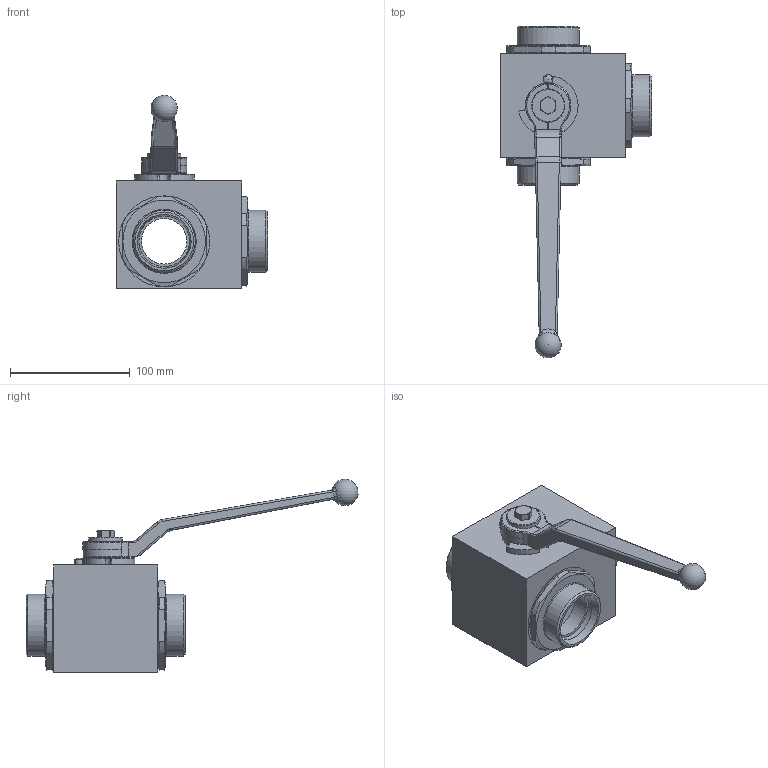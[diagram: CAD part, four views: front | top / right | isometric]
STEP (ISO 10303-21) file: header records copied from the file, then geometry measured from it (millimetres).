
FILE_DESCRIPTION( ( 'Unknown' ), '1' );
FILE_NAME( 'H:/PISTER/3D-MODELLE/BK3-Edelstahl stp/BK3-Edelst DN40 42L.stp', 'Unknown', ( 'Unknown' ), ( 'Unknown' ), 'PSStep 14.0', 'Unknown', ' ' );
FILE_SCHEMA( ( 'AUTOMOTIVE_DESIGN { 1 0 10303 214 1 1 1 1 }' ) );
Length unit declared in the file: millimetre
Products named in the file (11): Assem1; 56-032-171-oa2; 09-17-002; 58-1473-020-oa3; 58-0440-008; 03-040-001-oa4; 04-040-097-oa5; 04-040-097-oa6; 56-032-048-oa13; Griff_SW17_; 01-040-013-oa14
Assembly tree (10 placements, depth 2):
  Assem1
    56-032-171-oa2
    09-17-002
    58-1473-020-oa3
    58-0440-008
    03-040-001-oa4
    04-040-097-oa5
    04-040-097-oa6
    56-032-048-oa13
    Griff_SW17_
    01-040-013-oa14
Bounding box: 126.5 x 277.42 x 161.6 mm (x, y, z)
Volume: 589331.6 mm3; surface area: 140904.4 mm2
Topology: 10 solids, 10 shells, 353 faces, 888 edges, 562 vertices
Faces by surface type: plane 126, cylinder 118, cone 58, torus 30, bspline 18, sphere 3
Full cylindrical faces by diameter (mm): 6.647 x1, 7.98 x1, 8 x1, 9.2 x1, 24 x2, 28 x1, 32 x1, 38 x3, 40 x1, 42.3 x3, 52 x3, 56 x1, 60.5 x1, 62.835 x1, 63 x1, 65 x1, 65.2 x3, 65.35 x1, 68 x1, 70 x3, 76 x3
Entity records: 14939 total; most frequent: CARTESIAN_POINT 4065, DIRECTION 1672, ORIENTED_EDGE 1536, EDGE_CURVE 768, AXIS2_PLACEMENT_3D 696, VERTEX_POINT 528, EDGE_LOOP 464, FACE_OUTER_BOUND 401
